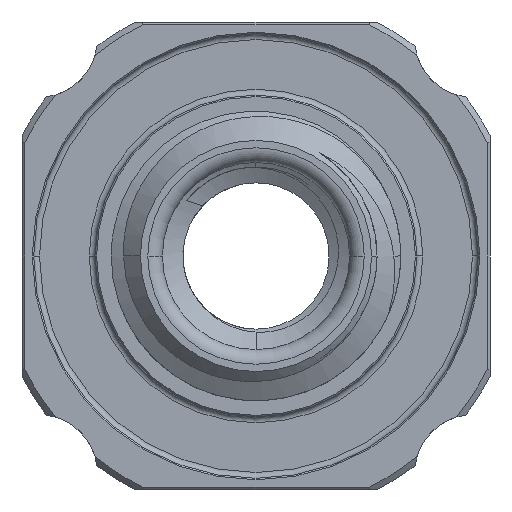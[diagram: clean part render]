
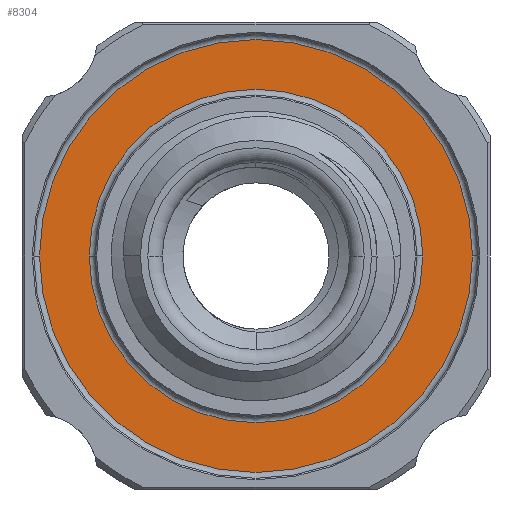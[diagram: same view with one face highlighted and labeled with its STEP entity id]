
A CAD part, front view. The second image highlights one B-rep face of the part: STEP entity #8304.
In plain terms, the highlighted planar face has unit normal (0, -1, 0).
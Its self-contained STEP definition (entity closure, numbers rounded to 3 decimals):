
#138 = EDGE_CURVE ( 'NONE', #7037, #4358, #4885, .T. ) ;
#936 = FACE_OUTER_BOUND ( 'NONE', #8422, .T. ) ;
#1013 = DIRECTION ( 'NONE',  ( 0., 1., 0. ) ) ;
#1044 = EDGE_CURVE ( 'NONE', #2368, #8144, #3176, .T. ) ;
#1081 = AXIS2_PLACEMENT_3D ( 'NONE', #4351, #3023, #3720 ) ;
#1163 = DIRECTION ( 'NONE',  ( 0., 1., 0. ) ) ;
#1376 = CARTESIAN_POINT ( 'NONE',  ( -7.4, 21.25, 0. ) ) ;
#1867 = DIRECTION ( 'NONE',  ( -1., 0., 0. ) ) ;
#2213 = CARTESIAN_POINT ( 'NONE',  ( 5.7, 21.25, 0. ) ) ;
#2256 = DIRECTION ( 'NONE',  ( 1., 0., 0. ) ) ;
#2349 = AXIS2_PLACEMENT_3D ( 'NONE', #6351, #1013, #3026 ) ;
#2368 = VERTEX_POINT ( 'NONE', #3712 ) ;
#2909 = CIRCLE ( 'NONE', #3608, 7.4 ) ;
#3023 = DIRECTION ( 'NONE',  ( 0., 1., 0. ) ) ;
#3026 = DIRECTION ( 'NONE',  ( -1., 0., 0. ) ) ;
#3176 = CIRCLE ( 'NONE', #1081, 7.4 ) ;
#3314 = ORIENTED_EDGE ( 'NONE', *, *, #1044, .F. ) ;
#3608 = AXIS2_PLACEMENT_3D ( 'NONE', #5341, #1163, #1867 ) ;
#3712 = CARTESIAN_POINT ( 'NONE',  ( 7.4, 21.25, 0. ) ) ;
#3720 = DIRECTION ( 'NONE',  ( -1., 0., 0. ) ) ;
#4003 = EDGE_CURVE ( 'NONE', #8144, #2368, #2909, .T. ) ;
#4266 = ORIENTED_EDGE ( 'NONE', *, *, #138, .T. ) ;
#4345 = AXIS2_PLACEMENT_3D ( 'NONE', #8270, #8364, #2256 ) ;
#4351 = CARTESIAN_POINT ( 'NONE',  ( 0., 21.25, 0. ) ) ;
#4358 = VERTEX_POINT ( 'NONE', #2213 ) ;
#4483 = AXIS2_PLACEMENT_3D ( 'NONE', #7863, #4492, #7189 ) ;
#4492 = DIRECTION ( 'NONE',  ( 0., 1., 0. ) ) ;
#4586 = ORIENTED_EDGE ( 'NONE', *, *, #8611, .T. ) ;
#4885 = CIRCLE ( 'NONE', #2349, 5.7 ) ;
#5341 = CARTESIAN_POINT ( 'NONE',  ( 0., 21.25, 0. ) ) ;
#5639 = CARTESIAN_POINT ( 'NONE',  ( -5.7, 21.25, 0. ) ) ;
#6317 = PLANE ( 'NONE',  #4345 ) ;
#6351 = CARTESIAN_POINT ( 'NONE',  ( 0., 21.25, 0. ) ) ;
#6971 = FACE_BOUND ( 'NONE', #7554, .T. ) ;
#7037 = VERTEX_POINT ( 'NONE', #5639 ) ;
#7189 = DIRECTION ( 'NONE',  ( -1., 0., 0. ) ) ;
#7554 = EDGE_LOOP ( 'NONE', ( #4266, #4586 ) ) ;
#7863 = CARTESIAN_POINT ( 'NONE',  ( 0., 21.25, 0. ) ) ;
#7885 = CIRCLE ( 'NONE', #4483, 5.7 ) ;
#8144 = VERTEX_POINT ( 'NONE', #1376 ) ;
#8270 = CARTESIAN_POINT ( 'NONE',  ( -5.7, 21.25, 0. ) ) ;
#8304 = ADVANCED_FACE ( 'NONE', ( #6971, #936 ), #6317, .T. ) ;
#8364 = DIRECTION ( 'NONE',  ( 0., -1., 0. ) ) ;
#8422 = EDGE_LOOP ( 'NONE', ( #8468, #3314 ) ) ;
#8468 = ORIENTED_EDGE ( 'NONE', *, *, #4003, .F. ) ;
#8611 = EDGE_CURVE ( 'NONE', #4358, #7037, #7885, .T. ) ;
